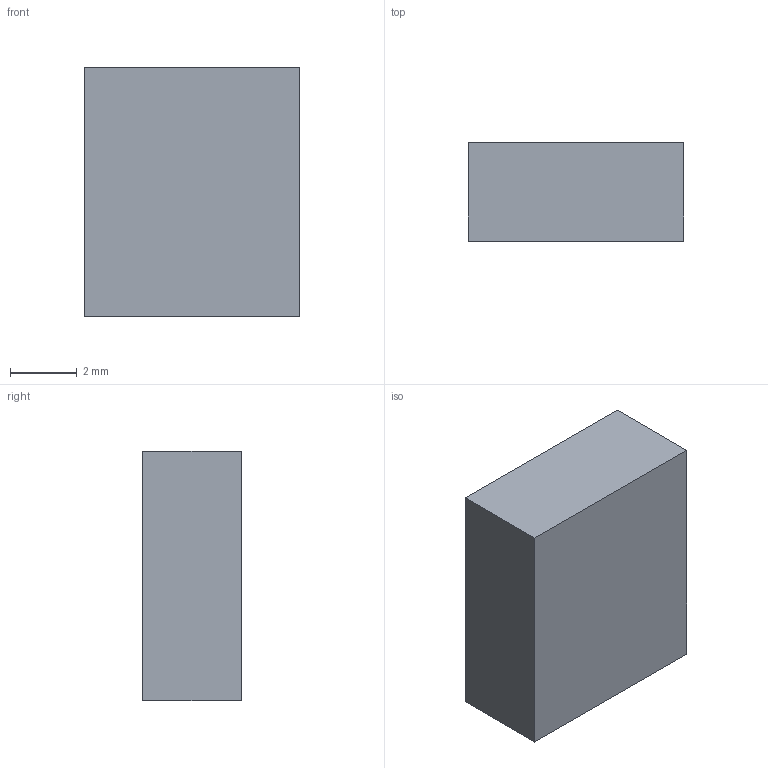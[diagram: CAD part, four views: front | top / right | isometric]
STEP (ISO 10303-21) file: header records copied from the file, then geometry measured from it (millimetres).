
FILE_DESCRIPTION(('Open CASCADE Model'),'2;1');
FILE_NAME('Open CASCADE Shape Model','2026-08-18T10:55:10',('Author'),( 'Open CASCADE'),'Open CASCADE STEP processor 7.9','Open CASCADE 7.9' ,'Unknown');
FILE_SCHEMA(('AUTOMOTIVE_DESIGN { 1 0 10303 214 1 1 1 1 }'));
Length unit declared in the file: millimetre
Products named in the file (1): micro_hdmi_port_1
Bounding box: 6.46 x 2.97 x 7.5 mm (x, y, z)
Volume: 143.9 mm3; surface area: 179.8 mm2
Topology: 1 solids, 1 shells, 6 faces, 12 edges, 8 vertices
Faces by surface type: plane 6
Entity records: 322 total; most frequent: CARTESIAN_POINT 51, DIRECTION 50, LINE 36, VECTOR 36, ORIENTED_EDGE 24, PCURVE 24, DEFINITIONAL_REPRESENTATION 24, EDGE_CURVE 12
